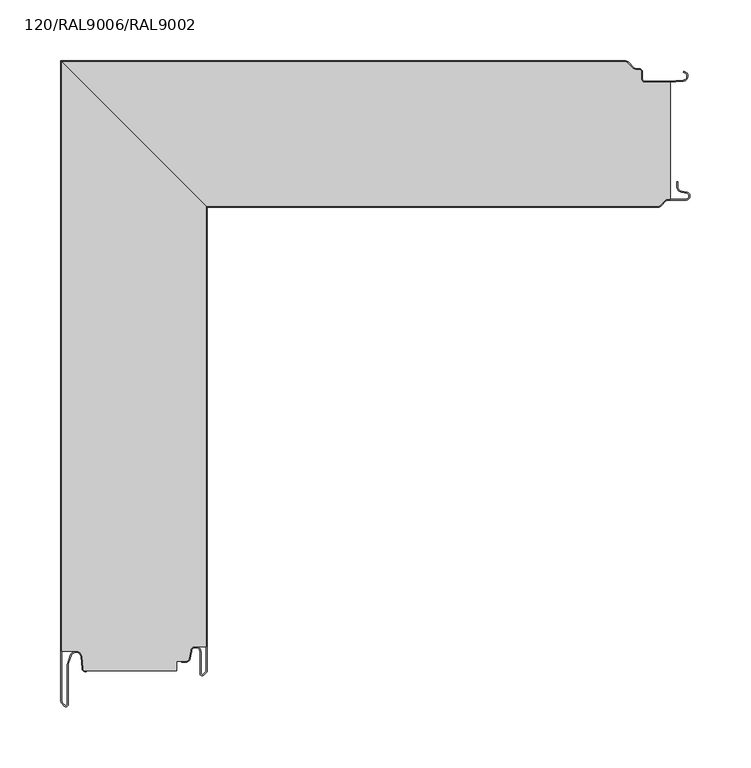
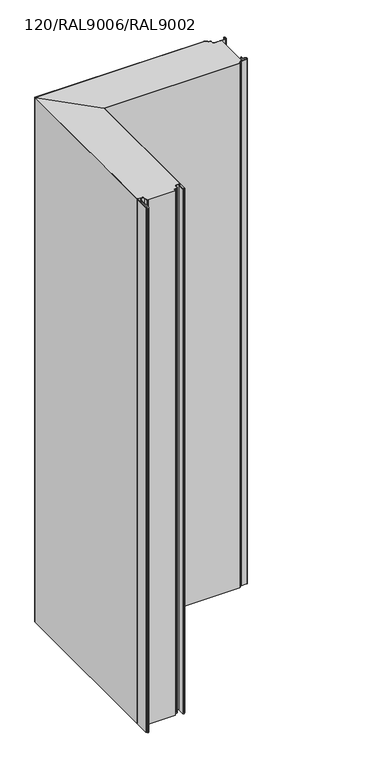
"""IFC4 building model written with IfcOpenShell, lengths in millimetres: plate geometry, TR_C_V_FHL_Corner_Long_B : 120/RAL9006/RAL9002."""

from ifc_helpers import new_model, si_unit, point, frame, frame_2d, origin, place, context, project, spatial, polyline, circle_curve, trimmed, segment, composite_curve, outline, extrude, source, transform, mapped, element, save


def plate_120_ral9006_ral9002_cf70b398(model_context):
    return source(origin(), model_context, "Body", "SweptSolid", [
        extrude(outline(composite_curve([segment(polyline([(-249.2000002, -0.8), (-130.8000002, -119.2), (-130.8000002, -480.1), (-139.4500002, -480.1)]), True, "CONTINUOUS"), segment(trimmed(circle_curve(frame_2d((-139.4500002, -484.35)), 4.25), [point((-139.4500002, -480.1))], [point((-143.6354331, -483.6119952))], True, "CARTESIAN"), True, "CONTINUOUS"), segment(polyline([(-143.6354331, -483.6119952), (-144.7022584, -489.6622621)]), True, "CONTINUOUS"), segment(trimmed(circle_curve(frame_2d((-147.6074413, -489.15)), 2.95), [point((-144.7022584, -489.6622621))], [point((-147.6074413, -492.1))], False, "CARTESIAN"), True, "CONTINUOUS"), segment(polyline([(-147.6074413, -492.1), (-155.1400002, -492.1), (-155.1400002, -500.0), (-229.2000002, -500.0), (-230.2091722, -499.9)]), True, "CONTINUOUS"), segment(trimmed(circle_curve(frame_2d((-230.2091722, -498.2)), 1.7), [point((-230.2091722, -499.9))], [point((-231.9027032, -498.3481648))], False, "CARTESIAN"), True, "CONTINUOUS"), segment(polyline([(-231.9027032, -498.3481648), (-232.7666167, -488.4735884)]), True, "CONTINUOUS"), segment(trimmed(circle_curve(frame_2d((-237.6479707, -488.9006516)), 4.9), [point((-232.7666167, -488.4735884))], [point((-237.6479707, -484.0006516))], True, "CARTESIAN"), True, "CONTINUOUS"), segment(polyline([(-237.6479707, -484.0006516), (-249.2000002, -484.0006516), (-249.2000002, -0.8)]), True, "CONTINUOUS")], self_intersect=False)), frame((0.0, 0.0, -15.0), z_axis=(0.0, 0.0, 1.0), x_axis=(1.0, 0.0, 0.0)), (0.0, 0.0, 1.0), 1515.0),
        extrude(outline(composite_curve([segment(polyline([(-249.2000002, -0.8), (213.4370797, -0.8)]), True, "CONTINUOUS"), segment(trimmed(circle_curve(frame_2d((213.4370797, -2.7)), 1.9), [point((213.4370797, -0.8))], [point((214.7805826, -1.3564971))], False, "CARTESIAN"), True, "CONTINUOUS"), segment(polyline([(214.7805826, -1.3564971), (219.6039845, -6.179899)]), True, "CONTINUOUS"), segment(trimmed(circle_curve(frame_2d((221.5838835, -4.2)), 2.8), [point((219.6039845, -6.179899))], [point((221.5838835, -7.0))], True, "CARTESIAN"), True, "CONTINUOUS"), segment(polyline([(221.5838835, -7.0), (224.4, -7.0)]), True, "CONTINUOUS"), segment(trimmed(circle_curve(frame_2d((224.4, -8.9)), 1.9), [point((224.4, -7.0))], [point((226.3, -8.9))], False, "CARTESIAN"), True, "CONTINUOUS"), segment(polyline([(226.3, -8.9), (226.3, -14.8)]), True, "CONTINUOUS"), segment(trimmed(circle_curve(frame_2d((229.1, -14.8)), 2.8), [point((226.3, -14.8))], [point((229.1, -17.6))], True, "CARTESIAN"), True, "CONTINUOUS"), segment(polyline([(229.1, -17.6), (248.2349288, -17.6), (250.0000003, -17.4455763), (250.0000003, -113.2), (248.1, -113.2)]), True, "CONTINUOUS"), segment(trimmed(circle_curve(frame_2d((248.1, -116.5)), 3.3), [point((248.1, -113.2))], [point((245.7665476, -114.1665476))], True, "CARTESIAN"), True, "CONTINUOUS"), segment(polyline([(245.7665476, -114.1665476), (241.3774603, -118.5556349)]), True, "CONTINUOUS"), segment(trimmed(circle_curve(frame_2d((239.8218254, -117.0)), 2.2), [point((241.3774603, -118.5556349))], [point((239.8218254, -119.2))], False, "CARTESIAN"), True, "CONTINUOUS"), segment(polyline([(239.8218254, -119.2), (-130.8000002, -119.2), (-249.2000002, -0.8)]), True, "CONTINUOUS")], self_intersect=False)), frame((0.0, 0.0, -15.0), z_axis=(0.0, 0.0, 1.0), x_axis=(1.0, 0.0, 0.0)), (0.0, 0.0, 1.0), 1515.0),
        extrude(outline(composite_curve([segment(polyline([(-130.8000002, -119.2), (-130.0000002, -120.0), (-130.0000002, -499.5186292)]), True, "CONTINUOUS"), segment(trimmed(circle_curve(frame_2d((-132.7500002, -499.5186292)), 2.75), [point((-130.0000002, -499.5186292))], [point((-130.8054565, -501.4631728))], False, "CARTESIAN"), True, "CONTINUOUS"), segment(polyline([(-130.8054565, -501.4631728), (-132.6711419, -503.3288582)]), True, "CONTINUOUS"), segment(trimmed(circle_curve(frame_2d((-134.0500002, -501.95)), 1.95), [point((-132.6711419, -503.3288582))], [point((-136.0000002, -501.95))], False, "CARTESIAN"), True, "CONTINUOUS"), segment(polyline([(-136.0000002, -501.95), (-136.0000002, -484.35)]), True, "CONTINUOUS"), segment(trimmed(circle_curve(frame_2d((-139.4500002, -484.35)), 3.45), [point((-136.0000002, -484.35))], [point((-142.8475869, -483.7509138))], True, "CARTESIAN"), True, "CONTINUOUS"), segment(polyline([(-142.8475869, -483.7509138), (-143.9144122, -489.8011807)]), True, "CONTINUOUS"), segment(trimmed(circle_curve(frame_2d((-147.6074413, -489.15)), 3.75), [point((-143.9144122, -489.8011807))], [point((-147.6074413, -492.9))], False, "CARTESIAN"), True, "CONTINUOUS"), segment(polyline([(-147.6074413, -492.9), (-151.0000002, -492.9), (-151.0000002, -492.1), (-147.6074413, -492.1)]), True, "CONTINUOUS"), segment(trimmed(circle_curve(frame_2d((-147.6074413, -489.15)), 2.95), [point((-147.6074413, -492.1))], [point((-144.7022584, -489.6622621))], True, "CARTESIAN"), True, "CONTINUOUS"), segment(polyline([(-144.7022584, -489.6622621), (-143.6354331, -483.6119952)]), True, "CONTINUOUS"), segment(trimmed(circle_curve(frame_2d((-139.4500002, -484.35)), 4.25), [point((-143.6354331, -483.6119952))], [point((-135.2000002, -484.35))], False, "CARTESIAN"), True, "CONTINUOUS"), segment(polyline([(-135.2000002, -484.35), (-135.2000002, -501.95)]), True, "CONTINUOUS"), segment(trimmed(circle_curve(frame_2d((-134.0500002, -501.95)), 1.15), [point((-135.2000002, -501.95))], [point((-133.2368274, -502.7631728))], True, "CARTESIAN"), True, "CONTINUOUS"), segment(polyline([(-133.2368274, -502.7631728), (-131.3711419, -500.8974874)]), True, "CONTINUOUS"), segment(trimmed(circle_curve(frame_2d((-132.7500002, -499.5186292)), 1.95), [point((-131.3711419, -500.8974874))], [point((-130.8000002, -499.5186292))], True, "CARTESIAN"), True, "CONTINUOUS"), segment(polyline([(-130.8000002, -499.5186292), (-130.8000002, -119.2)]), True, "CONTINUOUS")], self_intersect=False)), frame((0.0, 0.0, -15.0), z_axis=(0.0, 0.0, 1.0), x_axis=(1.0, 0.0, 0.0)), (0.0, 0.0, 1.0), 1515.0),
        extrude(outline(composite_curve([segment(polyline([(-250.0000002, 2e-07), (-249.2000002, -0.8), (-249.2000002, -525.1006169)]), True, "CONTINUOUS"), segment(trimmed(circle_curve(frame_2d((-247.3000002, -525.1006169)), 1.9), [point((-249.2000002, -525.1006169))], [point((-248.595797, -526.4901889))], True, "CARTESIAN"), True, "CONTINUOUS"), segment(polyline([(-248.595797, -526.4901889), (-246.6501983, -528.3044891)]), True, "CONTINUOUS"), segment(trimmed(circle_curve(frame_2d((-245.9000002, -527.5)), 1.1), [point((-246.6501983, -528.3044891))], [point((-244.8000002, -527.5))], True, "CARTESIAN"), True, "CONTINUOUS"), segment(polyline([(-244.8000002, -527.5), (-244.8000002, -495.1732718)]), True, "CONTINUOUS"), segment(trimmed(circle_curve(frame_2d((-241.5000002, -495.1732718)), 3.3), [point((-244.8000002, -495.1732718))], [point((-244.6202115, -494.0988969))], False, "CARTESIAN"), True, "CONTINUOUS"), segment(polyline([(-244.6202115, -494.0988969), (-242.2810117, -487.3053676)]), True, "CONTINUOUS"), segment(trimmed(circle_curve(frame_2d((-237.6479707, -488.9006516)), 4.9), [point((-242.2810117, -487.3053676))], [point((-232.7666167, -488.4735884))], False, "CARTESIAN"), True, "CONTINUOUS"), segment(polyline([(-232.7666167, -488.4735884), (-231.9027032, -498.3481648)]), True, "CONTINUOUS"), segment(trimmed(circle_curve(frame_2d((-230.2091722, -498.2)), 1.7), [point((-231.9027032, -498.3481648))], [point((-230.2091722, -499.9))], True, "CARTESIAN"), True, "CONTINUOUS"), segment(polyline([(-230.2091722, -499.9), (-229.2000002, -499.9), (-229.2000002, -500.7), (-230.2091722, -500.7)]), True, "CONTINUOUS"), segment(trimmed(circle_curve(frame_2d((-230.2091722, -498.2)), 2.5), [point((-230.2091722, -500.7))], [point((-232.699659, -498.4178894))], False, "CARTESIAN"), True, "CONTINUOUS"), segment(polyline([(-232.699659, -498.4178894), (-233.5635725, -488.543313)]), True, "CONTINUOUS"), segment(trimmed(circle_curve(frame_2d((-237.6479707, -488.9006516)), 4.1), [point((-233.5635725, -488.543313))], [point((-241.5245969, -487.5658221))], True, "CARTESIAN"), True, "CONTINUOUS"), segment(polyline([(-241.5245969, -487.5658221), (-243.8637966, -494.3593514)]), True, "CONTINUOUS"), segment(trimmed(circle_curve(frame_2d((-241.5000002, -495.1732718)), 2.5), [point((-243.8637966, -494.3593514))], [point((-244.0000002, -495.1732718))], True, "CARTESIAN"), True, "CONTINUOUS"), segment(polyline([(-244.0000002, -495.1732718), (-244.0000002, -527.5)]), True, "CONTINUOUS"), segment(trimmed(circle_curve(frame_2d((-245.9000002, -527.5)), 1.9), [point((-244.0000002, -527.5))], [point((-247.195797, -528.889572))], False, "CARTESIAN"), True, "CONTINUOUS"), segment(polyline([(-247.195797, -528.889572), (-249.1413957, -527.0752719)]), True, "CONTINUOUS"), segment(trimmed(circle_curve(frame_2d((-247.3000002, -525.1006169)), 2.7), [point((-249.1413957, -527.0752719))], [point((-250.0000002, -525.1006169))], False, "CARTESIAN"), True, "CONTINUOUS"), segment(polyline([(-250.0000002, -525.1006169), (-250.0000002, 2e-07)]), True, "CONTINUOUS")], self_intersect=False)), frame((0.0, 0.0, -15.0), z_axis=(0.0, 0.0, 1.0), x_axis=(1.0, 0.0, 0.0)), (0.0, 0.0, 1.0), 1515.0),
        extrude(outline(composite_curve([segment(polyline([(-250.0, 0.0), (213.4370797, 0.0)]), True, "CONTINUOUS"), segment(trimmed(circle_curve(frame_2d((213.4370797, -2.7)), 2.7), [point((213.4370797, 0.0))], [point((215.346268, -0.7908117))], False, "CARTESIAN"), True, "CONTINUOUS"), segment(polyline([(215.346268, -0.7908117), (220.1696699, -5.6142136)]), True, "CONTINUOUS"), segment(trimmed(circle_curve(frame_2d((221.5838835, -4.2)), 2.0), [point((220.1696699, -5.6142136))], [point((221.5838835, -6.2))], True, "CARTESIAN"), True, "CONTINUOUS"), segment(polyline([(221.5838835, -6.2), (224.4, -6.2)]), True, "CONTINUOUS"), segment(trimmed(circle_curve(frame_2d((224.4, -8.9)), 2.7), [point((224.4, -6.2))], [point((227.1, -8.9))], False, "CARTESIAN"), True, "CONTINUOUS"), segment(polyline([(227.1, -8.9), (227.1, -14.8)]), True, "CONTINUOUS"), segment(trimmed(circle_curve(frame_2d((229.1, -14.8)), 2.0), [point((227.1, -14.8))], [point((229.1, -16.8))], True, "CARTESIAN"), True, "CONTINUOUS"), segment(polyline([(229.1, -16.8), (248.2, -16.8), (260.6788984, -15.7082379)]), True, "CONTINUOUS"), segment(trimmed(circle_curve(frame_2d((260.4, -12.5204148)), 3.2), [point((260.6788984, -15.7082379))], [point((261.4418181, -9.4947554))], True, "CARTESIAN"), True, "CONTINUOUS"), segment(polyline([(261.4418181, -9.4947554), (260.5426332, -9.1851412), (260.8030877, -8.4287263), (261.7022726, -8.7383405)]), True, "CONTINUOUS"), segment(trimmed(circle_curve(frame_2d((260.4, -12.5204148)), 4.0), [point((261.7022726, -8.7383405))], [point((260.748623, -16.5051936))], False, "CARTESIAN"), True, "CONTINUOUS"), segment(polyline([(260.748623, -16.5051936), (248.2349288, -17.6), (229.1, -17.6)]), True, "CONTINUOUS"), segment(trimmed(circle_curve(frame_2d((229.1, -14.8)), 2.8), [point((229.1, -17.6))], [point((226.3, -14.8))], False, "CARTESIAN"), True, "CONTINUOUS"), segment(polyline([(226.3, -14.8), (226.3, -8.9)]), True, "CONTINUOUS"), segment(trimmed(circle_curve(frame_2d((224.4, -8.9)), 1.9), [point((226.3, -8.9))], [point((224.4, -7.0))], True, "CARTESIAN"), True, "CONTINUOUS"), segment(polyline([(224.4, -7.0), (221.5838835, -7.0)]), True, "CONTINUOUS"), segment(trimmed(circle_curve(frame_2d((221.5838835, -4.2)), 2.8), [point((221.5838835, -7.0))], [point((219.6039845, -6.179899))], False, "CARTESIAN"), True, "CONTINUOUS"), segment(polyline([(219.6039845, -6.179899), (214.7805826, -1.3564971)]), True, "CONTINUOUS"), segment(trimmed(circle_curve(frame_2d((213.4370797, -2.7)), 1.9), [point((214.7805826, -1.3564971))], [point((213.4370797, -0.8))], True, "CARTESIAN"), True, "CONTINUOUS"), segment(polyline([(213.4370797, -0.8), (-249.2000002, -0.8), (-250.0, 0.0)]), True, "CONTINUOUS")], self_intersect=False)), frame((0.0, 0.0, -15.0), z_axis=(0.0, 0.0, 1.0), x_axis=(1.0, 0.0, 0.0)), (0.0, 0.0, 1.0), 1515.0),
        extrude(outline(composite_curve([segment(polyline([(-130.8000002, -119.2), (239.8218256, -119.2)]), True, "CONTINUOUS"), segment(trimmed(circle_curve(frame_2d((239.8218256, -117.0)), 2.2), [point((239.8218256, -119.2))], [point((241.3774605, -118.5556349))], True, "CARTESIAN"), True, "CONTINUOUS"), segment(polyline([(241.3774605, -118.5556349), (245.7665478, -114.1665476)]), True, "CONTINUOUS"), segment(trimmed(circle_curve(frame_2d((248.1000002, -116.5)), 3.3), [point((245.7665478, -114.1665476))], [point((248.1000002, -113.2))], False, "CARTESIAN"), True, "CONTINUOUS"), segment(polyline([(248.1000002, -113.2), (262.8500002, -113.2)]), True, "CONTINUOUS"), segment(trimmed(circle_curve(frame_2d((262.8500002, -110.75)), 2.45), [point((262.8500002, -113.2))], [point((263.2754382, -108.337221))], True, "CARTESIAN"), True, "CONTINUOUS"), segment(polyline([(263.2754382, -108.337221), (259.0599009, -107.5939081)]), True, "CONTINUOUS"), segment(trimmed(circle_curve(frame_2d((259.8500002, -103.1130328)), 4.55), [point((259.0599009, -107.5939081))], [point((255.3000002, -103.1130328))], False, "CARTESIAN"), True, "CONTINUOUS"), segment(polyline([(255.3000002, -103.1130328), (255.3000002, -99.0), (256.1000002, -99.0), (256.1000002, -103.1130328)]), True, "CONTINUOUS"), segment(trimmed(circle_curve(frame_2d((259.8500002, -103.1130328)), 3.75), [point((256.1000002, -103.1130328))], [point((259.1988195, -106.8060618))], True, "CARTESIAN"), True, "CONTINUOUS"), segment(polyline([(259.1988195, -106.8060618), (263.4143567, -107.5493748)]), True, "CONTINUOUS"), segment(trimmed(circle_curve(frame_2d((262.8500002, -110.75)), 3.25), [point((263.4143567, -107.5493748))], [point((262.8500002, -114.0))], False, "CARTESIAN"), True, "CONTINUOUS"), segment(polyline([(262.8500002, -114.0), (248.1000002, -114.0)]), True, "CONTINUOUS"), segment(trimmed(circle_curve(frame_2d((248.1000002, -116.5)), 2.5), [point((248.1000002, -114.0))], [point((246.3322332, -114.732233))], True, "CARTESIAN"), True, "CONTINUOUS"), segment(polyline([(246.3322332, -114.732233), (241.9431459, -119.1213203)]), True, "CONTINUOUS"), segment(trimmed(circle_curve(frame_2d((239.8218256, -117.0)), 3.0), [point((241.9431459, -119.1213203))], [point((239.8218256, -120.0))], False, "CARTESIAN"), True, "CONTINUOUS"), segment(polyline([(239.8218256, -120.0), (-130.0000002, -120.0), (-130.8000002, -119.2)]), True, "CONTINUOUS")], self_intersect=False)), frame((0.0, 0.0, -15.0), z_axis=(0.0, 0.0, 1.0), x_axis=(1.0, 0.0, 0.0)), (0.0, 0.0, 1.0), 1515.0),
    ])


if __name__ == "__main__":
    model = new_model("IFC4")
    model_context = context("Model", 3, world=origin())
    ifc_project = project(units=[si_unit("LENGTHUNIT", "METRE", prefix="MILLI")], contexts=[model_context])
    site = spatial("IfcSite", under=ifc_project)
    building = spatial("IfcBuilding", under=site)
    placement = place(None, origin())
    plate_120_ral9006_ral9002_shape = plate_120_ral9006_ral9002_cf70b398(model_context)
    element("IfcPlate", 1, ObjectType="TR_C_V_FHL_Corner_Long_B : 120/RAL9006/RAL9002", at=placement, inside=building, context=model_context, shape_type="MappedRepresentation", body=[
        mapped(plate_120_ral9006_ral9002_shape, transform((0.0, 0.0, 0.0), x_axis=(1.0, 0.0, 0.0), y_axis=(0.0, 1.0, 0.0), z_axis=(0.0, 0.0, 1.0))),
    ])
    save(model, "model.ifc")
